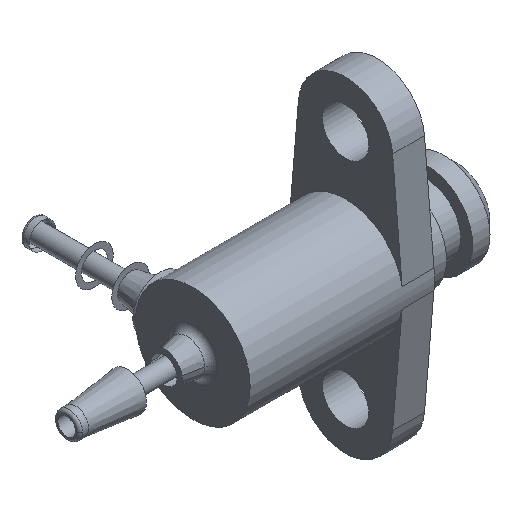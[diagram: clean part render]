
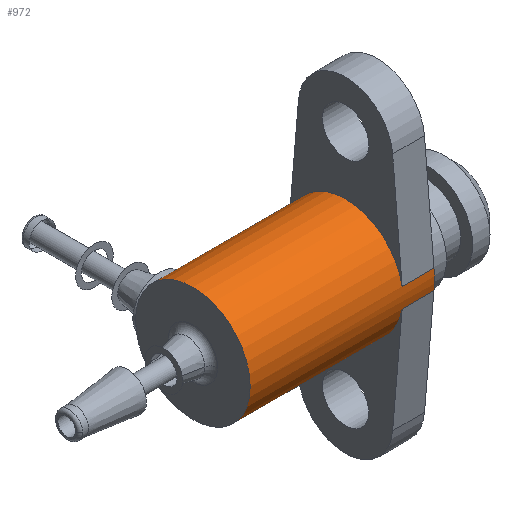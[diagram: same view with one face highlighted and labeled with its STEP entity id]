
A CAD part, isometric view. The second image highlights one B-rep face of the part: STEP entity #972.
In plain terms, the highlighted cylindrical face has radius 3.96 mm (diameter 7.92 mm), a full revolution.
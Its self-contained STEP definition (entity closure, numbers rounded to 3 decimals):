
#13=B_SPLINE_CURVE_WITH_KNOTS('',3,(#1745,#1746,#1747,#1748,#1749,#1750,
#1751,#1752,#1753,#1754,#1755,#1756,#1757,#1758,#1759,#1760,#1761,#1762,
#1763,#1764,#1765,#1766,#1767,#1768,#1769,#1770,#1771,#1772,#1773,#1774,
#1775,#1776,#1777,#1778),.UNSPECIFIED.,.T.,.F.,(4,2,2,2,2,2,2,2,2,2,2,2,
2,2,2,2,4),(-1.135,-1.064,-0.993,-0.922,
-0.851,-0.78,-0.709,-0.638,
-0.567,-0.496,-0.425,-0.354,
-0.284,-0.213,-0.142,-0.071,
0.),.UNSPECIFIED.);
#74=CYLINDRICAL_SURFACE('',#1129,3.96);
#107=FACE_OUTER_BOUND('',#163,.T.);
#163=EDGE_LOOP('',(#804,#805,#806,#807,#808,#809,#810,#811,#812,#813,#814,
#815,#816,#817));
#226=LINE('',#1799,#268);
#227=LINE('',#1803,#269);
#228=LINE('',#1807,#270);
#229=LINE('',#1811,#271);
#230=LINE('',#1816,#272);
#268=VECTOR('',#1425,2.2);
#269=VECTOR('',#1428,2.2);
#270=VECTOR('',#1431,2.2);
#271=VECTOR('',#1434,3.96);
#272=VECTOR('',#1441,2.2);
#370=CIRCLE('',#1130,3.96);
#371=CIRCLE('',#1131,3.96);
#372=CIRCLE('',#1132,3.96);
#373=CIRCLE('',#1133,3.96);
#374=CIRCLE('',#1134,3.96);
#375=CIRCLE('',#1135,3.96);
#376=CIRCLE('',#1136,3.96);
#468=VERTEX_POINT('',#1744);
#475=VERTEX_POINT('',#1795);
#476=VERTEX_POINT('',#1796);
#477=VERTEX_POINT('',#1798);
#478=VERTEX_POINT('',#1800);
#479=VERTEX_POINT('',#1802);
#480=VERTEX_POINT('',#1804);
#481=VERTEX_POINT('',#1806);
#482=VERTEX_POINT('',#1808);
#483=VERTEX_POINT('',#1810);
#484=VERTEX_POINT('',#1814);
#595=EDGE_CURVE('',#468,#468,#13,.F.);
#604=EDGE_CURVE('',#475,#476,#370,.T.);
#605=EDGE_CURVE('',#477,#476,#226,.T.);
#606=EDGE_CURVE('',#477,#478,#371,.T.);
#607=EDGE_CURVE('',#479,#478,#227,.T.);
#608=EDGE_CURVE('',#479,#480,#372,.T.);
#609=EDGE_CURVE('',#481,#480,#228,.T.);
#610=EDGE_CURVE('',#481,#482,#373,.T.);
#611=EDGE_CURVE('',#482,#483,#229,.T.);
#612=EDGE_CURVE('',#468,#483,#374,.T.);
#613=EDGE_CURVE('',#483,#468,#375,.T.);
#614=EDGE_CURVE('',#482,#484,#376,.T.);
#615=EDGE_CURVE('',#475,#484,#230,.T.);
#804=ORIENTED_EDGE('',*,*,#604,.T.);
#805=ORIENTED_EDGE('',*,*,#605,.F.);
#806=ORIENTED_EDGE('',*,*,#606,.T.);
#807=ORIENTED_EDGE('',*,*,#607,.F.);
#808=ORIENTED_EDGE('',*,*,#608,.T.);
#809=ORIENTED_EDGE('',*,*,#609,.F.);
#810=ORIENTED_EDGE('',*,*,#610,.T.);
#811=ORIENTED_EDGE('',*,*,#611,.T.);
#812=ORIENTED_EDGE('',*,*,#612,.F.);
#813=ORIENTED_EDGE('',*,*,#595,.T.);
#814=ORIENTED_EDGE('',*,*,#613,.F.);
#815=ORIENTED_EDGE('',*,*,#611,.F.);
#816=ORIENTED_EDGE('',*,*,#614,.T.);
#817=ORIENTED_EDGE('',*,*,#615,.F.);
#972=ADVANCED_FACE('',(#107),#74,.T.);
#1129=AXIS2_PLACEMENT_3D('',#1794,#1421,#1422);
#1130=AXIS2_PLACEMENT_3D('',#1797,#1423,#1424);
#1131=AXIS2_PLACEMENT_3D('',#1801,#1426,#1427);
#1132=AXIS2_PLACEMENT_3D('',#1805,#1429,#1430);
#1133=AXIS2_PLACEMENT_3D('',#1809,#1432,#1433);
#1134=AXIS2_PLACEMENT_3D('',#1812,#1435,#1436);
#1135=AXIS2_PLACEMENT_3D('',#1813,#1437,#1438);
#1136=AXIS2_PLACEMENT_3D('',#1815,#1439,#1440);
#1421=DIRECTION('center_axis',(1.,0.,0.));
#1422=DIRECTION('ref_axis',(0.,0.,1.));
#1423=DIRECTION('center_axis',(-1.,0.,0.));
#1424=DIRECTION('ref_axis',(0.,-1.,0.));
#1425=DIRECTION('',(1.,0.,0.));
#1426=DIRECTION('center_axis',(-1.,0.,0.));
#1427=DIRECTION('ref_axis',(0.,-0.985,0.17));
#1428=DIRECTION('',(-1.,0.,0.));
#1429=DIRECTION('center_axis',(-1.,0.,0.));
#1430=DIRECTION('ref_axis',(0.,0.985,0.17));
#1431=DIRECTION('',(1.,0.,0.));
#1432=DIRECTION('center_axis',(-1.,0.,0.));
#1433=DIRECTION('ref_axis',(0.,0.985,-0.17));
#1434=DIRECTION('',(-1.,0.,0.));
#1435=DIRECTION('center_axis',(-1.,0.,0.));
#1436=DIRECTION('ref_axis',(0.,-1.,0.));
#1437=DIRECTION('center_axis',(-1.,0.,0.));
#1438=DIRECTION('ref_axis',(0.,-1.,0.));
#1439=DIRECTION('center_axis',(-1.,0.,0.));
#1440=DIRECTION('ref_axis',(0.,0.985,-0.17));
#1441=DIRECTION('',(-1.,0.,0.));
#1744=CARTESIAN_POINT('',(-6.375,3.96,0.));
#1745=CARTESIAN_POINT('Ctrl Pts',(-4.525,3.501,-1.85));
#1746=CARTESIAN_POINT('Ctrl Pts',(-4.762,3.501,-1.85));
#1747=CARTESIAN_POINT('Ctrl Pts',(-5.011,3.528,-1.802));
#1748=CARTESIAN_POINT('Ctrl Pts',(-5.465,3.619,-1.612));
#1749=CARTESIAN_POINT('Ctrl Pts',(-5.671,3.681,-1.471));
#1750=CARTESIAN_POINT('Ctrl Pts',(-5.995,3.794,-1.146));
#1751=CARTESIAN_POINT('Ctrl Pts',(-6.137,3.854,-0.94));
#1752=CARTESIAN_POINT('Ctrl Pts',(-6.327,3.937,-0.486));
#1753=CARTESIAN_POINT('Ctrl Pts',(-6.375,3.96,-0.236));
#1754=CARTESIAN_POINT('Ctrl Pts',(-6.375,3.96,0.236));
#1755=CARTESIAN_POINT('Ctrl Pts',(-6.327,3.937,0.486));
#1756=CARTESIAN_POINT('Ctrl Pts',(-6.137,3.854,0.94));
#1757=CARTESIAN_POINT('Ctrl Pts',(-5.995,3.794,1.146));
#1758=CARTESIAN_POINT('Ctrl Pts',(-5.671,3.681,1.471));
#1759=CARTESIAN_POINT('Ctrl Pts',(-5.465,3.619,1.612));
#1760=CARTESIAN_POINT('Ctrl Pts',(-5.011,3.528,1.802));
#1761=CARTESIAN_POINT('Ctrl Pts',(-4.762,3.501,1.85));
#1762=CARTESIAN_POINT('Ctrl Pts',(-4.288,3.501,1.85));
#1763=CARTESIAN_POINT('Ctrl Pts',(-4.039,3.528,1.802));
#1764=CARTESIAN_POINT('Ctrl Pts',(-3.585,3.619,1.612));
#1765=CARTESIAN_POINT('Ctrl Pts',(-3.379,3.681,1.471));
#1766=CARTESIAN_POINT('Ctrl Pts',(-3.055,3.794,1.146));
#1767=CARTESIAN_POINT('Ctrl Pts',(-2.913,3.854,0.94));
#1768=CARTESIAN_POINT('Ctrl Pts',(-2.723,3.937,0.486));
#1769=CARTESIAN_POINT('Ctrl Pts',(-2.675,3.96,0.236));
#1770=CARTESIAN_POINT('Ctrl Pts',(-2.675,3.96,-0.236));
#1771=CARTESIAN_POINT('Ctrl Pts',(-2.723,3.937,-0.486));
#1772=CARTESIAN_POINT('Ctrl Pts',(-2.913,3.854,-0.94));
#1773=CARTESIAN_POINT('Ctrl Pts',(-3.055,3.794,-1.146));
#1774=CARTESIAN_POINT('Ctrl Pts',(-3.379,3.681,-1.471));
#1775=CARTESIAN_POINT('Ctrl Pts',(-3.585,3.619,-1.612));
#1776=CARTESIAN_POINT('Ctrl Pts',(-4.039,3.528,-1.802));
#1777=CARTESIAN_POINT('Ctrl Pts',(-4.288,3.501,-1.85));
#1778=CARTESIAN_POINT('Ctrl Pts',(-4.525,3.501,-1.85));
#1794=CARTESIAN_POINT('Origin',(6.375,0.,0.));
#1795=CARTESIAN_POINT('',(6.375,-3.902,-0.674));
#1796=CARTESIAN_POINT('',(6.375,-3.902,0.674));
#1797=CARTESIAN_POINT('Origin',(6.375,0.,0.));
#1798=CARTESIAN_POINT('',(4.175,-3.902,0.674));
#1799=CARTESIAN_POINT('',(4.175,-3.902,0.674));
#1800=CARTESIAN_POINT('',(4.175,3.902,0.674));
#1801=CARTESIAN_POINT('Origin',(4.175,0.,0.));
#1802=CARTESIAN_POINT('',(6.375,3.902,0.674));
#1803=CARTESIAN_POINT('',(6.375,3.902,0.674));
#1804=CARTESIAN_POINT('',(6.375,3.902,-0.674));
#1805=CARTESIAN_POINT('Origin',(6.375,0.,0.));
#1806=CARTESIAN_POINT('',(4.175,3.902,-0.674));
#1807=CARTESIAN_POINT('',(4.175,3.902,-0.674));
#1808=CARTESIAN_POINT('',(4.175,0.,-3.96));
#1809=CARTESIAN_POINT('Origin',(4.175,0.,0.));
#1810=CARTESIAN_POINT('',(-6.375,0.,-3.96));
#1811=CARTESIAN_POINT('',(6.375,0.,-3.96));
#1812=CARTESIAN_POINT('Origin',(-6.375,0.,0.));
#1813=CARTESIAN_POINT('Origin',(-6.375,0.,0.));
#1814=CARTESIAN_POINT('',(4.175,-3.902,-0.674));
#1815=CARTESIAN_POINT('Origin',(4.175,0.,0.));
#1816=CARTESIAN_POINT('',(6.375,-3.902,-0.674));
